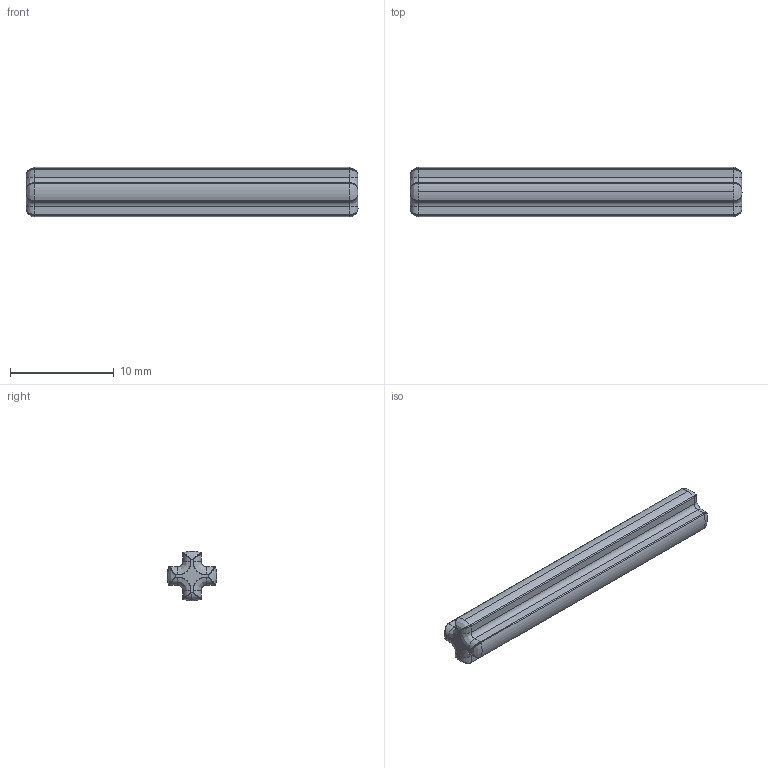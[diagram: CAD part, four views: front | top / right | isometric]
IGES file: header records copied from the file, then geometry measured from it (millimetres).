
Start section: SolidWorks IGES file using analytic representation for surfaces
Global section: file name: C:\Users\PC\Desktop\Lego Technik Gear and Axles\Axles\STEP, IGES, STL\3705 Black Technic Axle 4.IGS; native system: SolidWorks 2014; preprocessor: SolidWorks 2014; author: PC; date: 150218.223330; units: millimetre
Bounding box: 32 x 4.79 x 4.8 mm (x, y, z)
Surface area: 558.8 mm2 (no closed solid volume)
Topology: 0 solids, 0 shells, 77 faces, 490 edges, 474 vertices
Faces by surface type: bspline 44, revolution 33
